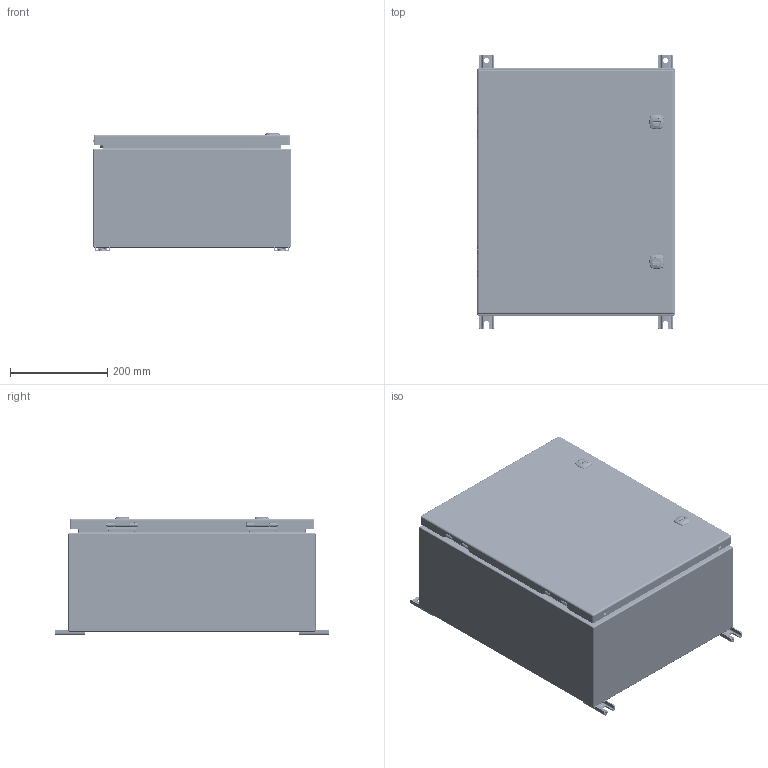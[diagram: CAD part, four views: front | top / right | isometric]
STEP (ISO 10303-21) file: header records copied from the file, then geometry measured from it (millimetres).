
FILE_DESCRIPTION(/* description */ ('5412ESTH 20" x 16" x 8" Assembly'),/* implementation_level */ '2;1');
FILE_NAME(/* name */ 'C:\Vault_Workspace\Inventor_Dwg\BoxCad\Result\5412ESTH201608\e-mail\3D\5412ESTH201608.stp',/* time_stamp */ '2023-05-03T08:16:05-04:00',/* author */ ('BoxCad'),/* organization */ (''),/* preprocessor_version */ 'ST-DEVELOPER v18.1',/* originating_system */ 'Autodesk Inventor 2020',/* authorisation */ '');
FILE_SCHEMA (('AUTOMOTIVE_DESIGN { 1 0 10303 214 3 1 1 }'));
Products named in the file (51): 5412ESTH201608; 5412ESTH201608B; 5412ESTH201608B-P; STK-Q-16005; 5412ESTH201608I-B; 5412ESTH201608I-TP; 5412ESTH201608I-BT; 5412ESTH201608I-LS; 5412ESTH201608I-RS; 5412ESTH201608BR; STK-A-70554; STK-Q-05021; STK-Q-07270; STK-A-70554TH-1; STK-Q-70554; 885ESMF3-Feet-A; 885ESMF3-Feet; STK-Q-06660; RIVET_NUT_M10_FH_CE; 5412ESTH201608C; 5412ESTH201608C-P; 5412ESTH201608G; STK-K-09800; STK-K-09800-2; STK-Q-33014; STK-Q-90398; STK-Q-40095; STK-Q-63410; STK-Q-16055; STK-P-02400S; 5412ESTH201608I-C; STK-Q-46020-20; STK-Q-07250; STK-S-00100; STK-K-12500-1; STK-K-12500-2; STK-Q-78111; STK-Q-78120; STK-Q-78145; STK-Q-03200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
Assembly tree (98 placements, depth 5):
  5412ESTH201608
    5412ESTH201608B
      5412ESTH201608B-P
      STK-Q-16005  x4
      STK-P-02400S
      STK-Q-16055  x4
      5412ESTH201608I-B
      5412ESTH201608I-TP
      5412ESTH201608I-BT
      5412ESTH201608I-LS
      5412ESTH201608I-RS
      5412ESTH201608BR
        STK-A-70554
          STK-Q-70554
          STK-Q-05021
          STK-Q-07270
        STK-A-70554TH-1  x3
          STK-Q-70554
          STK-Q-07250
      885ESMF3-Feet-A  x2
      STK-Q-06660  x4
      RIVET_NUT_M10_FH_CE  x4
      885ESMF3-Feet  x2
    5412ESTH201608C
      5412ESTH201608C-P
      5412ESTH201608G
      STK-K-09800
        STK-Q-33014
        STK-Q-90398
        STK-Q-40095  x2
        STK-Q-63410  x2
      STK-K-09800-2
        STK-Q-33014
        STK-Q-90398
        STK-Q-40095  x2
        STK-Q-63410  x2
      STK-Q-16055  x4
      STK-P-02400S
      5412ESTH201608I-C
      STK-Q-46020-20  x2
      STK-Q-07250  x4
      STK-S-00100  x2
      STK-K-12500-1
        STK-Q-78111
        STK-Q-78120
        STK-Q-78145
        STK-Q-03200
        STK-Q-78141
        STK-Q-90390
        STK-Q-78160
      STK-K-12500-2
        STK-Q-78111
        STK-Q-78120
        STK-Q-78145
        STK-Q-03200
        STK-Q-78141
        STK-Q-90390
        STK-Q-78160
    STK-Q-04050-08-1
      STK-Q-04050-08-P
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Bounding box: 406.47 x 565.15 x 243.78 mm (x, y, z)
Volume: 14674144 mm3; surface area: 3896203.6 mm2
Topology: 85 solids, 85 shells, 14056 faces, 37718 edges, 24061 vertices
Faces by surface type: bspline 4540, plane 4323, cylinder 3894, torus 814, cone 312, sphere 173
Full cylindrical faces by diameter (mm): 0.75 x12, 0.762 x12, 1 x8, 1.1 x8, 3.2 x4, 4.191 x32, 4.5 x8, 4.521 x8, 4.75 x1, 4.85 x16, 4.95 x4, 5.1 x132, 5.6 x2, 5.9 x28, 6.015 x32, 6.496 x8, 6.65 x4, 6.8 x60, 7.3 x2, 7.35 x8, 7.366 x4, 7.9 x8, 8 x4, 8.382 x2, 8.5 x4, 9.5 x1, 9.6 x2, 9.7 x36, 10 x2, 10.312 x6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
Entity records: 204931 total; most frequent: CARTESIAN_POINT 84240, ORIENTED_EDGE 27074, DIRECTION 21051, EDGE_CURVE 13537, VERTEX_POINT 8577, AXIS2_PLACEMENT_3D 7506, LINE 6039, VECTOR 6039
